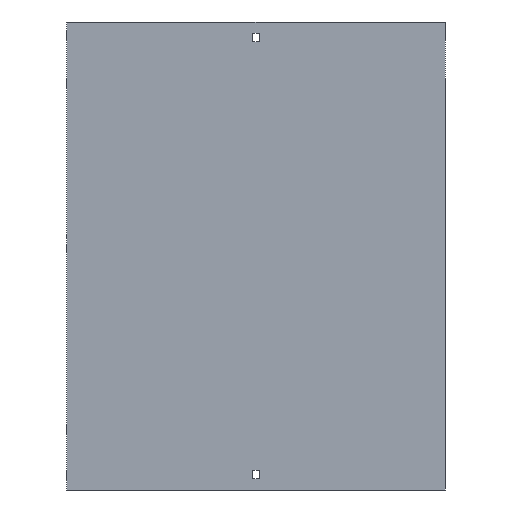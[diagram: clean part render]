
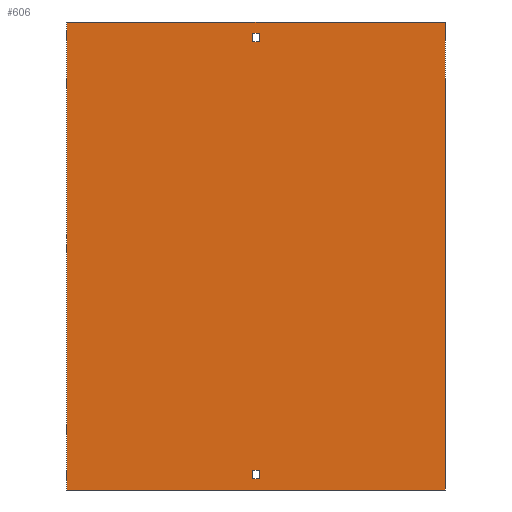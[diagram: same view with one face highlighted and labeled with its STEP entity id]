
A CAD part, front view. The second image highlights one B-rep face of the part: STEP entity #606.
In plain terms, the highlighted planar face has unit normal (0, -1, 0).
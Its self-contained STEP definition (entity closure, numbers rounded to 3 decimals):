
#8 = VECTOR ( 'NONE', #796, 1000. ) ;
#38 = CARTESIAN_POINT ( 'NONE',  ( -3.25, 0., -238. ) ) ;
#57 = CARTESIAN_POINT ( 'NONE',  ( 3.25, 0., -238. ) ) ;
#64 = ORIENTED_EDGE ( 'NONE', *, *, #2061, .T. ) ;
#68 = LINE ( 'NONE', #38, #841 ) ;
#93 = CARTESIAN_POINT ( 'NONE',  ( -3.25, 0., -238. ) ) ;
#105 = ORIENTED_EDGE ( 'NONE', *, *, #208, .F. ) ;
#107 = CARTESIAN_POINT ( 'NONE',  ( -3.25, 0., 238. ) ) ;
#135 = VECTOR ( 'NONE', #1722, 1000. ) ;
#205 = CARTESIAN_POINT ( 'NONE',  ( -202., 0., -250. ) ) ;
#208 = EDGE_CURVE ( 'NONE', #465, #1616, #2090, .T. ) ;
#248 = VERTEX_POINT ( 'NONE', #1200 ) ;
#265 = EDGE_CURVE ( 'NONE', #248, #465, #1865, .T. ) ;
#312 = CARTESIAN_POINT ( 'NONE',  ( -3.25, 0., 229. ) ) ;
#329 = VECTOR ( 'NONE', #1665, 1000. ) ;
#369 = DIRECTION ( 'NONE',  ( 0., 0., -1. ) ) ;
#374 = FACE_BOUND ( 'NONE', #468, .T. ) ;
#421 = EDGE_CURVE ( 'NONE', #2498, #1750, #2540, .T. ) ;
#465 = VERTEX_POINT ( 'NONE', #2433 ) ;
#468 = EDGE_LOOP ( 'NONE', ( #2234, #2241, #105, #699 ) ) ;
#496 = CARTESIAN_POINT ( 'NONE',  ( 3.25, 0., -229. ) ) ;
#511 = EDGE_CURVE ( 'NONE', #1616, #999, #1816, .T. ) ;
#594 = LINE ( 'NONE', #2537, #1058 ) ;
#595 = PLANE ( 'NONE',  #877 ) ;
#606 = ADVANCED_FACE ( 'NONE', ( #1648, #374, #1223 ), #595, .F. ) ;
#609 = VERTEX_POINT ( 'NONE', #2301 ) ;
#636 = CARTESIAN_POINT ( 'NONE',  ( -3.25, 0., -229. ) ) ;
#657 = VECTOR ( 'NONE', #2199, 1000. ) ;
#670 = ORIENTED_EDGE ( 'NONE', *, *, #1788, .T. ) ;
#699 = ORIENTED_EDGE ( 'NONE', *, *, #265, .F. ) ;
#796 = DIRECTION ( 'NONE',  ( -1., 0., 0. ) ) ;
#810 = CARTESIAN_POINT ( 'NONE',  ( 3.25, 0., 238. ) ) ;
#833 = VERTEX_POINT ( 'NONE', #1707 ) ;
#841 = VECTOR ( 'NONE', #913, 1000. ) ;
#877 = AXIS2_PLACEMENT_3D ( 'NONE', #2087, #1402, #1663 ) ;
#913 = DIRECTION ( 'NONE',  ( -1., 0., 0. ) ) ;
#999 = VERTEX_POINT ( 'NONE', #2188 ) ;
#1034 = ORIENTED_EDGE ( 'NONE', *, *, #1674, .F. ) ;
#1058 = VECTOR ( 'NONE', #1279, 1000. ) ;
#1081 = LINE ( 'NONE', #2146, #2614 ) ;
#1102 = VECTOR ( 'NONE', #2364, 1000. ) ;
#1130 = VECTOR ( 'NONE', #1487, 1000. ) ;
#1145 = EDGE_CURVE ( 'NONE', #999, #248, #1794, .T. ) ;
#1156 = DIRECTION ( 'NONE',  ( 0., 0., -1. ) ) ;
#1200 = CARTESIAN_POINT ( 'NONE',  ( 3.25, 0., 229. ) ) ;
#1220 = ORIENTED_EDGE ( 'NONE', *, *, #2147, .T. ) ;
#1223 = FACE_BOUND ( 'NONE', #2600, .T. ) ;
#1224 = CARTESIAN_POINT ( 'NONE',  ( 3.25, 0., -238. ) ) ;
#1279 = DIRECTION ( 'NONE',  ( 1., 0., 0. ) ) ;
#1301 = EDGE_CURVE ( 'NONE', #833, #1940, #1081, .T. ) ;
#1341 = LINE ( 'NONE', #93, #1102 ) ;
#1402 = DIRECTION ( 'NONE',  ( 0., 1., 0. ) ) ;
#1429 = CARTESIAN_POINT ( 'NONE',  ( -3.25, 0., -238. ) ) ;
#1487 = DIRECTION ( 'NONE',  ( 1., 0., 0. ) ) ;
#1496 = LINE ( 'NONE', #2330, #135 ) ;
#1528 = EDGE_CURVE ( 'NONE', #1620, #1975, #68, .T. ) ;
#1616 = VERTEX_POINT ( 'NONE', #2660 ) ;
#1620 = VERTEX_POINT ( 'NONE', #1224 ) ;
#1648 = FACE_OUTER_BOUND ( 'NONE', #2649, .T. ) ;
#1663 = DIRECTION ( 'NONE',  ( -1., 0., 0. ) ) ;
#1665 = DIRECTION ( 'NONE',  ( 0., 0., 1. ) ) ;
#1672 = LINE ( 'NONE', #2515, #2231 ) ;
#1674 = EDGE_CURVE ( 'NONE', #609, #833, #1496, .T. ) ;
#1707 = CARTESIAN_POINT ( 'NONE',  ( 202., 0., 250. ) ) ;
#1722 = DIRECTION ( 'NONE',  ( 1., 0., 0. ) ) ;
#1750 = VERTEX_POINT ( 'NONE', #496 ) ;
#1788 = EDGE_CURVE ( 'NONE', #1975, #2498, #1341, .T. ) ;
#1794 = LINE ( 'NONE', #312, #1957 ) ;
#1808 = DIRECTION ( 'NONE',  ( 1., 0., 0. ) ) ;
#1816 = LINE ( 'NONE', #107, #2441 ) ;
#1859 = ORIENTED_EDGE ( 'NONE', *, *, #1528, .T. ) ;
#1865 = LINE ( 'NONE', #810, #329 ) ;
#1892 = CARTESIAN_POINT ( 'NONE',  ( -3.25, 0., 238. ) ) ;
#1940 = VERTEX_POINT ( 'NONE', #2262 ) ;
#1957 = VECTOR ( 'NONE', #1808, 1000. ) ;
#1975 = VERTEX_POINT ( 'NONE', #1429 ) ;
#1981 = ORIENTED_EDGE ( 'NONE', *, *, #1301, .F. ) ;
#2061 = EDGE_CURVE ( 'NONE', #2124, #1940, #594, .T. ) ;
#2087 = CARTESIAN_POINT ( 'NONE',  ( -202., 0., 250. ) ) ;
#2090 = LINE ( 'NONE', #1892, #8 ) ;
#2109 = LINE ( 'NONE', #57, #657 ) ;
#2124 = VERTEX_POINT ( 'NONE', #205 ) ;
#2129 = EDGE_CURVE ( 'NONE', #609, #2124, #1672, .T. ) ;
#2146 = CARTESIAN_POINT ( 'NONE',  ( 202., 0., 250. ) ) ;
#2147 = EDGE_CURVE ( 'NONE', #1750, #1620, #2109, .T. ) ;
#2188 = CARTESIAN_POINT ( 'NONE',  ( -3.25, 0., 229. ) ) ;
#2199 = DIRECTION ( 'NONE',  ( 0., 0., -1. ) ) ;
#2231 = VECTOR ( 'NONE', #2339, 1000. ) ;
#2234 = ORIENTED_EDGE ( 'NONE', *, *, #1145, .F. ) ;
#2241 = ORIENTED_EDGE ( 'NONE', *, *, #511, .F. ) ;
#2262 = CARTESIAN_POINT ( 'NONE',  ( 202., 0., -250. ) ) ;
#2301 = CARTESIAN_POINT ( 'NONE',  ( -202., 0., 250. ) ) ;
#2330 = CARTESIAN_POINT ( 'NONE',  ( -202., 0., 250. ) ) ;
#2339 = DIRECTION ( 'NONE',  ( 0., 0., -1. ) ) ;
#2364 = DIRECTION ( 'NONE',  ( 0., 0., 1. ) ) ;
#2433 = CARTESIAN_POINT ( 'NONE',  ( 3.25, 0., 238. ) ) ;
#2441 = VECTOR ( 'NONE', #1156, 1000. ) ;
#2478 = ORIENTED_EDGE ( 'NONE', *, *, #421, .T. ) ;
#2481 = ORIENTED_EDGE ( 'NONE', *, *, #2129, .T. ) ;
#2498 = VERTEX_POINT ( 'NONE', #2753 ) ;
#2515 = CARTESIAN_POINT ( 'NONE',  ( -202., 0., 250. ) ) ;
#2537 = CARTESIAN_POINT ( 'NONE',  ( -202., 0., -250. ) ) ;
#2540 = LINE ( 'NONE', #636, #1130 ) ;
#2600 = EDGE_LOOP ( 'NONE', ( #670, #2478, #1220, #1859 ) ) ;
#2614 = VECTOR ( 'NONE', #369, 1000. ) ;
#2649 = EDGE_LOOP ( 'NONE', ( #64, #1981, #1034, #2481 ) ) ;
#2660 = CARTESIAN_POINT ( 'NONE',  ( -3.25, 0., 238. ) ) ;
#2753 = CARTESIAN_POINT ( 'NONE',  ( -3.25, 0., -229. ) ) ;
